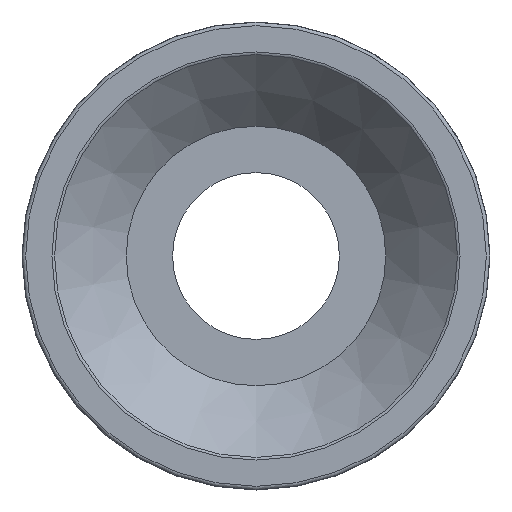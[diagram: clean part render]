
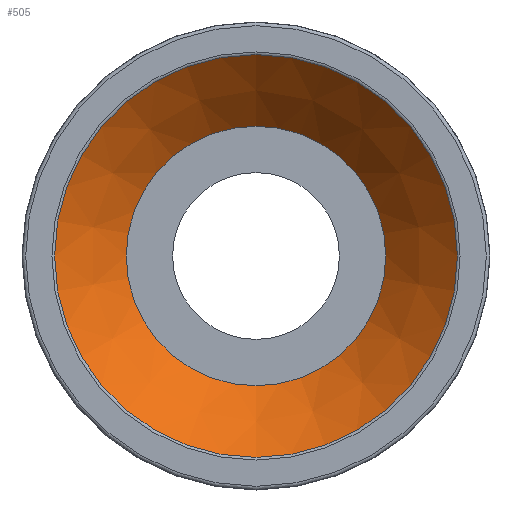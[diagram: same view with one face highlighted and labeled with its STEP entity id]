
A CAD part, front view. The second image highlights one B-rep face of the part: STEP entity #505.
In plain terms, the highlighted conical face has half-angle 44.436 degrees and reference radius 3.5 mm.
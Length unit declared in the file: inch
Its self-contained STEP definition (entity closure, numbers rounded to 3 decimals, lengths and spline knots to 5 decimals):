
#3 = EDGE_LOOP ( 'NONE', ( #289 ) ) ;
#66 = VERTEX_POINT ( 'NONE', #111 ) ;
#73 = FACE_OUTER_BOUND ( 'NONE', #456, .T. ) ;
#80 = FACE_BOUND ( 'NONE', #3, .T. ) ;
#82 = DIRECTION ( 'NONE',  ( 0., -1., 0. ) ) ;
#111 = CARTESIAN_POINT ( 'NONE',  ( 0., -1.42598, 0.21384 ) ) ;
#117 = EDGE_CURVE ( 'NONE', #478, #478, #339, .T. ) ;
#125 = DIRECTION ( 'NONE',  ( 0., 1., 0. ) ) ;
#147 = DIRECTION ( 'NONE',  ( 0., 0., 1. ) ) ;
#160 = EDGE_CURVE ( 'NONE', #66, #66, #557, .T. ) ;
#215 = CONICAL_SURFACE ( 'NONE', #509, 0.1378, 0.776 ) ;
#220 = CARTESIAN_POINT ( 'NONE',  ( 0., -1.34843, 0. ) ) ;
#227 = DIRECTION ( 'NONE',  ( 0., 0., 1. ) ) ;
#244 = CARTESIAN_POINT ( 'NONE',  ( 0., -1.34843, 0.1378 ) ) ;
#261 = DIRECTION ( 'NONE',  ( 0., 0., -1. ) ) ;
#265 = AXIS2_PLACEMENT_3D ( 'NONE', #276, #363, #147 ) ;
#276 = CARTESIAN_POINT ( 'NONE',  ( 0., -1.42598, 0. ) ) ;
#289 = ORIENTED_EDGE ( 'NONE', *, *, #117, .T. ) ;
#333 = ORIENTED_EDGE ( 'NONE', *, *, #160, .T. ) ;
#339 = CIRCLE ( 'NONE', #412, 0.1378 ) ;
#347 = CARTESIAN_POINT ( 'NONE',  ( 0., -1.34843, 0. ) ) ;
#363 = DIRECTION ( 'NONE',  ( 0., -1., 0. ) ) ;
#412 = AXIS2_PLACEMENT_3D ( 'NONE', #347, #125, #227 ) ;
#456 = EDGE_LOOP ( 'NONE', ( #333 ) ) ;
#478 = VERTEX_POINT ( 'NONE', #244 ) ;
#505 = ADVANCED_FACE ( 'NONE', ( #73, #80 ), #215, .F. ) ;
#509 = AXIS2_PLACEMENT_3D ( 'NONE', #220, #82, #261 ) ;
#557 = CIRCLE ( 'NONE', #265, 0.21384 ) ;
